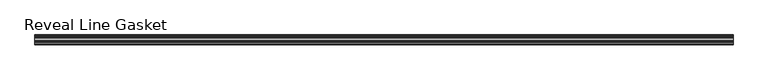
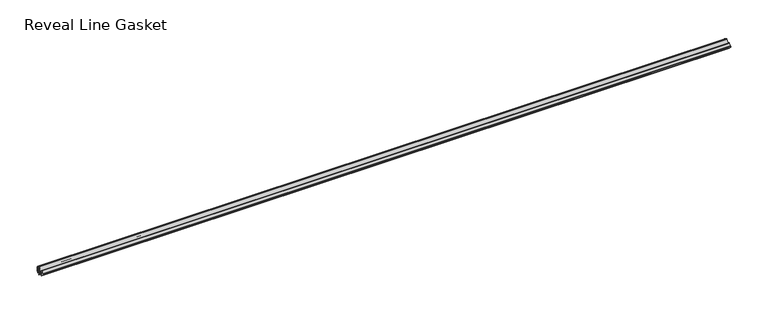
"""IFC4 building model written with IfcOpenShell, lengths in millimetres: proxy geometry, Accessories-Teknion-FHGR-AI_Healthcare-Reveal_Line_Gasket(Horizontal)-R2022 : Reveal Line Gasket."""

from ifc_helpers import new_model, si_unit, point, frame, frame_2d, origin, place, context, project, spatial, polyline, circle_curve, trimmed, segment, composite_curve, outline, extrude, source, transform, mapped, element, save


def reveal_line_gasket_d13e8e36(model_context):
    return source(origin(), model_context, "Body", "SweptSolid", [
        extrude(outline(composite_curve([segment(polyline([(7.6326998, 1603.2), (7.6326998, 1597.2), (7.4091917, 1596.2445073), (6.8813059, 1595.3115316)]), True, "CONTINUOUS"), segment(trimmed(circle_curve(frame_2d((6.5243141, 1595.5135207)), 0.4101739), [point((6.8813059, 1595.3115316))], [point((6.1246704, 1595.6058653))], False, "CARTESIAN"), True, "CONTINUOUS"), segment(polyline([(6.1246704, 1595.6058653), (6.3626997, 1597.3020914), (6.3626997, 1599.3345473)]), True, "CONTINUOUS"), segment(trimmed(circle_curve(frame_2d((5.6959605, 1598.9180742)), 0.786124), [point((6.3626997, 1599.3345473))], [point((5.0926996, 1599.422125))], True, "CARTESIAN"), True, "CONTINUOUS"), segment(polyline([(5.0926996, 1599.422125), (0.7492996, 1599.422125), (3.7293824, 1594.2604705)]), True, "CONTINUOUS"), segment(trimmed(circle_curve(frame_2d((3.3132479, 1594.1950239)), 0.4212495), [point((3.7293824, 1594.2604705))], [point((3.0485022, 1593.8673642))], False, "CARTESIAN"), True, "CONTINUOUS"), segment(polyline([(3.0485022, 1593.8673642), (-0.5742594, 1599.422125), (-4.8262978, 1599.422125), (-3.1660374, 1596.5464703)]), True, "CONTINUOUS"), segment(trimmed(circle_curve(frame_2d((-3.5978728, 1596.4881145)), 0.4357605), [point((-3.1660374, 1596.5464703))], [point((-3.864328, 1596.1433119))], False, "CARTESIAN"), True, "CONTINUOUS"), segment(polyline([(-3.864328, 1596.1433119), (-6.1944059, 1599.422125), (-7.6326998, 1599.422125), (-7.6326998, 1600.977875), (-6.1944059, 1600.977875), (-3.864328, 1604.2566881)]), True, "CONTINUOUS"), segment(trimmed(circle_curve(frame_2d((-3.5978728, 1603.9118855)), 0.4357605), [point((-3.864328, 1604.2566881))], [point((-3.1660374, 1603.8535297))], False, "CARTESIAN"), True, "CONTINUOUS"), segment(polyline([(-3.1660374, 1603.8535297), (-4.8262978, 1600.977875), (-0.5742594, 1600.977875), (3.0485022, 1606.5326358)]), True, "CONTINUOUS"), segment(trimmed(circle_curve(frame_2d((3.3132479, 1606.2049761)), 0.4212495), [point((3.0485022, 1606.5326358))], [point((3.7293824, 1606.1395295))], False, "CARTESIAN"), True, "CONTINUOUS"), segment(polyline([(3.7293824, 1606.1395295), (0.7492996, 1600.977875), (5.0926996, 1600.977875)]), True, "CONTINUOUS"), segment(trimmed(circle_curve(frame_2d((5.6959605, 1601.4819258)), 0.786124), [point((5.0926996, 1600.977875))], [point((6.3626997, 1601.0654527))], True, "CARTESIAN"), True, "CONTINUOUS"), segment(polyline([(6.3626997, 1601.0654527), (6.3626997, 1603.0979086), (6.1246704, 1604.7941347)]), True, "CONTINUOUS"), segment(trimmed(circle_curve(frame_2d((6.5243141, 1604.8864793)), 0.4101739), [point((6.1246704, 1604.7941347))], [point((6.8813059, 1605.0884684))], False, "CARTESIAN"), True, "CONTINUOUS"), segment(polyline([(6.8813059, 1605.0884684), (7.4091917, 1604.1554927), (7.6326998, 1603.2)]), True, "CONTINUOUS")], self_intersect=False)), frame((-531.5249999, 0.0, 0.0), z_axis=(1.0, 0.0, 0.0), x_axis=(0.0, 1.0, 0.0)), (0.0, 0.0, 1.0), 1063.0499999),
    ])


if __name__ == "__main__":
    model = new_model("IFC4")
    model_context = context("Model", 3, world=origin())
    ifc_project = project(units=[si_unit("LENGTHUNIT", "METRE", prefix="MILLI")], contexts=[model_context])
    site = spatial("IfcSite", under=ifc_project)
    building = spatial("IfcBuilding", under=site)
    placement = place(None, origin())
    reveal_line_gasket_shape = reveal_line_gasket_d13e8e36(model_context)
    element("IfcBuildingElementProxy", 1, Name="Accessories-Teknion-FHGR-AI_Healthcare-Reveal_Line_Gasket(Horizontal)-R2022 : Reveal Line Gasket", ObjectType="Accessories-Teknion-FHGR-AI_Healthcare-Reveal_Line_Gasket(Horizontal)-R2022 : Reveal Line Gasket", at=placement, inside=building, context=model_context, shape_type="MappedRepresentation", body=[
        mapped(reveal_line_gasket_shape, transform((0.0, 0.0, 0.0), x_axis=(1.0, 0.0, 0.0), y_axis=(0.0, 1.0, 0.0), z_axis=(0.0, 0.0, 1.0))),
    ])
    save(model, "model.ifc")
